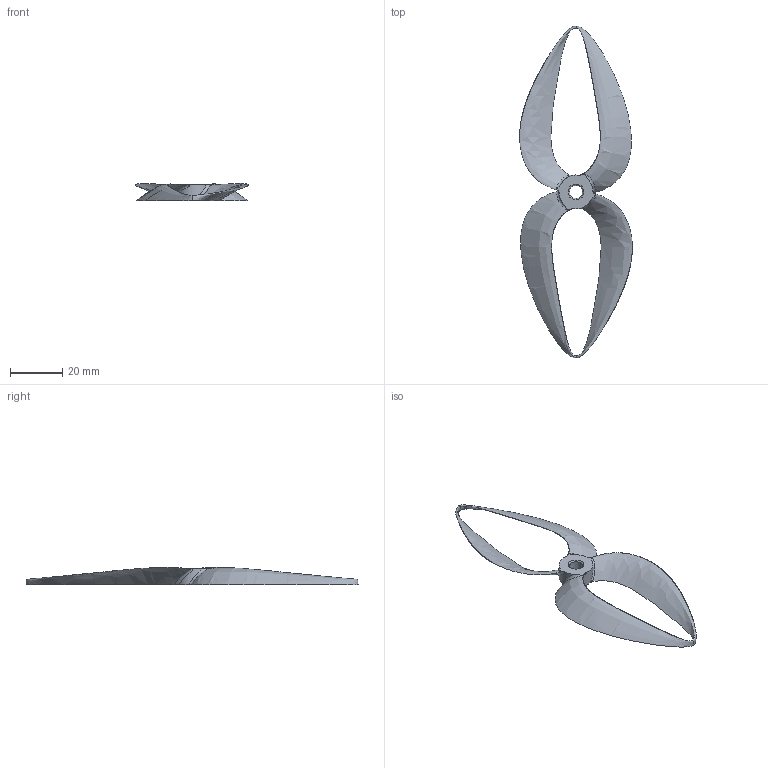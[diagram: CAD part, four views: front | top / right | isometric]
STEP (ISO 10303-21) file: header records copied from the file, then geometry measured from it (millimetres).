
FILE_DESCRIPTION(/* description */ (''),/* implementation_level */ '2;1');
FILE_NAME(/* name */ 'V2 Bi-Loop 5-inch.step',/* time_stamp */ '2023-02-14T12:24:34+07:00',/* author */ (''),/* organization */ (''),/* preprocessor_version */ 'ST-DEVELOPER v19.2',/* originating_system */ 'Autodesk Translation Framework v11.17.0.187',/* authorisation */ '');
FILE_SCHEMA (('AUTOMOTIVE_DESIGN { 1 0 10303 214 3 1 1 }'));
Length unit declared in the file: millimetre
Products named in the file (1): V2 Bi-Loop 5"
Bounding box: 43.08 x 127 x 6.51 mm (x, y, z)
Volume: 2321.5 mm3; surface area: 5914.8 mm2
Topology: 1 solids, 1 shells, 25 faces, 75 edges, 50 vertices
Faces by surface type: bspline 12, cylinder 9, cone 2, plane 2
Full cylindrical faces by diameter (mm): 5 x1
Entity records: 3913 total; most frequent: CARTESIAN_POINT 3332, ORIENTED_EDGE 150, EDGE_CURVE 75, DIRECTION 63, VERTEX_POINT 50, B_SPLINE_CURVE_WITH_KNOTS 46, AXIS2_PLACEMENT_3D 30, EDGE_LOOP 29
